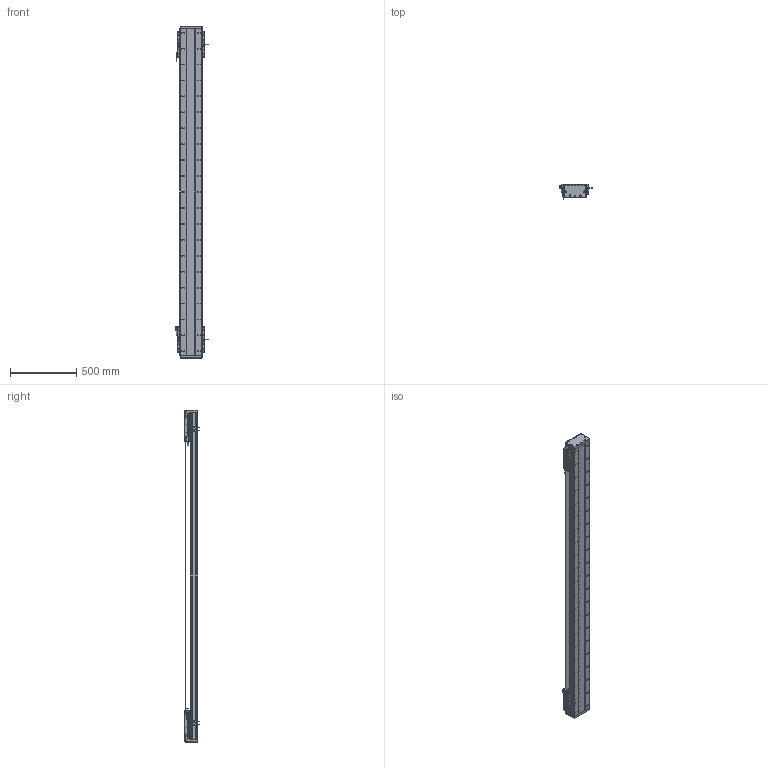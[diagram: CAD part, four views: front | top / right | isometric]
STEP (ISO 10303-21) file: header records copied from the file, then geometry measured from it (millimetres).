
FILE_DESCRIPTION (( 'STEP AP203' ), '1' );
FILE_NAME ('DA-C165-2-C2-T2000-C010-0.2 直线电机.STEP', '2023-05-11T08:26:07', ( '微软用户' ), ( '微软中国' ), 'SwSTEP 2.0', 'SolidWorks 2019', '' );
FILE_SCHEMA (( 'CONFIG_CONTROL_DESIGN' ));
Length unit declared in the file: millimetre
Products named in the file (22): 复件 DKW-HXJ-JY-00 缓冲橡胶^DA-C165-C2-T-C010-0.2-N 直线电机; 葩璃 DA95-GT-T-00^IU-CU165-L 菁釱絳寢_T; 复件 DA165-GYP-00 光电感应片^DA-C165-C2-T-C010-0.2-N 直线电机; 复件 DA165-GD-DG-H-00 端盖^复件 CU165钢带组件_DA-C165-C2-T-C010-0.2-N 直线电机; 复件 XD-U-02L 磁栅尺^DA-C165-C2-T-C010-0.2-N 直线电机_T; 葩璃 PM-T45^DA-C165-C2-T-C010-0.2-N 眻盄萇儂; 复件 DMA-010-0.2 读数头^DA-C165-C2-T-C010-0.2-N 直线电机; 葩璃 CKM01-W075-TRL^DA-C165-C2-T-C010-0.2-N 眻盄萇儂; 复件 CKM02-W075-C1C2-TP-3.0 一体电机-C2^DA-C165-C2-T-C010-0.2-N 直线电机; 复件 六角薄螺母 M3^DA-C165-C2-T-C010-0.2-N 直线电机_GB_FASTENER_NUT_STNAB M3-C; IU-CU165-L-00 菁釱_L2460; 复件 CU165钢带组件^DA-C165-C2-T-C010-0.2-N 直线电机; 复件 DA95-HXJ-00 缓冲橡胶^DA-C165-C2-T-C010-0.2-N 直线电机; DA-C165-2-C2-T2000-C010-0.2 眻盄萇儂; 复件 DA165-GDLK-00 钢带拉块^复件 CU165钢带组件_DA-C165-C2-T-C010-0.2-N 直线电机; 珨极趙賑雄怢啣wf-C2; 复件 DA126-GYP-ZJ-00 中间光电感应片^DA-C165-C2-T-C010-0.2-N 直线电机; 复件 66338-1000-006-00 光电感应块^DA-C165-C2-T-C010-0.2-N 直线电机; 复件 DA165-GDYK-00 钢带压块^复件 CU165钢带组件_DA-C165-C2-T-C010-0.2-N 直线电机; IU-CU165-L 菁釱絳寢; 葩璃 PM-Y45^DA-C165-C2-T-C010-0.2-N 眻盄萇儂; 复件 DA165-GD-1860-002-00 钢带盖板^复件 CU165钢带组件_DA-C165-C2-T-C010-0.2-N 直线电机
Assembly tree (43 placements, depth 3):
  DA-C165-2-C2-T2000-C010-0.2 眻盄萇儂
    IU-CU165-L 菁釱絳寢
      IU-CU165-L-00 菁釱_L2460
      葩璃 DA95-GT-T-00^IU-CU165-L 菁釱絳寢_T  x4
    复件 XD-U-02L 磁栅尺^DA-C165-C2-T-C010-0.2-N 直线电机_T
    葩璃 PM-T45^DA-C165-C2-T-C010-0.2-N 眻盄萇儂  x4
    葩璃 CKM01-W075-TRL^DA-C165-C2-T-C010-0.2-N 眻盄萇儂
    复件 CU165钢带组件^DA-C165-C2-T-C010-0.2-N 直线电机
      复件 DA165-GD-DG-H-00 端盖^复件 CU165钢带组件_DA-C165-C2-T-C010-0.2-N 直线电机  x2
      复件 DA165-GDYK-00 钢带压块^复件 CU165钢带组件_DA-C165-C2-T-C010-0.2-N 直线电机  x2
      复件 DA165-GD-1860-002-00 钢带盖板^复件 CU165钢带组件_DA-C165-C2-T-C010-0.2-N 直线电机
      复件 DA165-GDLK-00 钢带拉块^复件 CU165钢带组件_DA-C165-C2-T-C010-0.2-N 直线电机  x2
    复件 DA95-HXJ-00 缓冲橡胶^DA-C165-C2-T-C010-0.2-N 直线电机  x4
    复件 CKM02-W075-C1C2-TP-3.0 一体电机-C2^DA-C165-C2-T-C010-0.2-N 直线电机  x2
    复件 DMA-010-0.2 读数头^DA-C165-C2-T-C010-0.2-N 直线电机  x2
    复件 DA165-GYP-00 光电感应片^DA-C165-C2-T-C010-0.2-N 直线电机  x2
    复件 66338-1000-006-00 光电感应块^DA-C165-C2-T-C010-0.2-N 直线电机
    葩璃 PM-Y45^DA-C165-C2-T-C010-0.2-N 眻盄萇儂
    复件 DA126-GYP-ZJ-00 中间光电感应片^DA-C165-C2-T-C010-0.2-N 直线电机
    复件 DKW-HXJ-JY-00 缓冲橡胶^DA-C165-C2-T-C010-0.2-N 直线电机  x2
    复件 六角薄螺母 M3^DA-C165-C2-T-C010-0.2-N 直线电机_GB_FASTENER_NUT_STNAB M3-C  x6
    珨极趙賑雄怢啣wf-C2  x2
Bounding box: 247.2 x 111.45 x 2500 mm (x, y, z)
Volume: 15585639.8 mm3; surface area: 4499697.8 mm2
Topology: 119 solids, 119 shells, 5599 faces, 15686 edges, 9892 vertices
Faces by surface type: cylinder 3004, plane 1803, cone 704, torus 80, sphere 8
Entity records: 133450 total; most frequent: CARTESIAN_POINT 35427, ORIENTED_EDGE 20316, DIRECTION 19620, EDGE_CURVE 10158, AXIS2_PLACEMENT_3D 7440, VERTEX_POINT 6629, VECTOR 4740, LINE 4740
